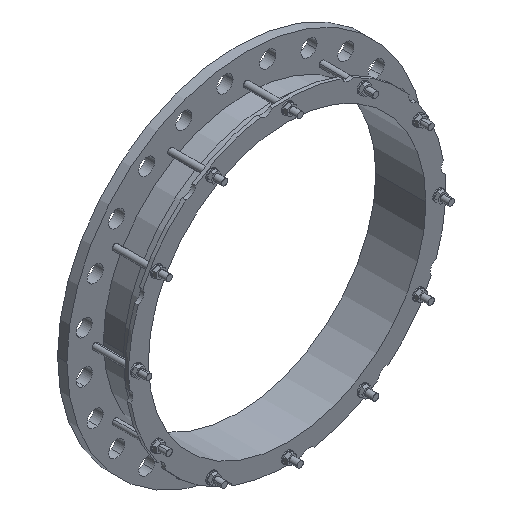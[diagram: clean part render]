
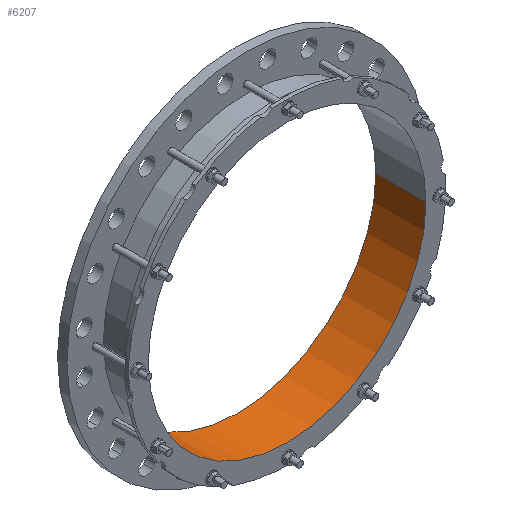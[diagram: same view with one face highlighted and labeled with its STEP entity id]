
A CAD part, isometric view. The second image highlights one B-rep face of the part: STEP entity #6207.
In plain terms, the highlighted cylindrical face has radius 371.25 mm (diameter 742.5 mm), a partial arc.
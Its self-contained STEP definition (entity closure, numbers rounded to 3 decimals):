
#7=CARTESIAN_POINT('',(0.,25.,0.));
#8=DIRECTION('',(0.,1.,0.));
#9=DIRECTION('',(1.,0.,0.));
#10=AXIS2_PLACEMENT_3D('',#7,#8,#9);
#2320=CARTESIAN_POINT('',(0.,-109.,0.));
#2321=DIRECTION('',(0.,1.,0.));
#2322=DIRECTION('',(1.,0.,0.));
#2323=AXIS2_PLACEMENT_3D('',#2320,#2321,#2322);
#2325=DIRECTION('',(0.,1.,0.));
#2326=VECTOR('',#2325,134.);
#2327=CARTESIAN_POINT('',(371.25,-109.,0.));
#2328=LINE('',#2327,#2326);
#2329=DIRECTION('',(0.,1.,0.));
#2330=VECTOR('',#2329,134.);
#2331=CARTESIAN_POINT('',(-371.25,-109.,0.));
#2332=LINE('',#2331,#2330);
#4198=CARTESIAN_POINT('',(371.25,-109.,0.));
#4199=CARTESIAN_POINT('',(371.25,25.,0.));
#4200=VERTEX_POINT('',#4198);
#4201=VERTEX_POINT('',#4199);
#4206=CARTESIAN_POINT('',(-371.25,-109.,0.));
#4207=CARTESIAN_POINT('',(-371.25,25.,0.));
#4208=VERTEX_POINT('',#4206);
#4209=VERTEX_POINT('',#4207);
#6194=CARTESIAN_POINT('',(0.,-115.7,0.));
#6195=DIRECTION('',(0.,1.,0.));
#6196=DIRECTION('',(-1.,0.,0.));
#6197=AXIS2_PLACEMENT_3D('',#6194,#6195,#6196);
#6198=CYLINDRICAL_SURFACE('',#6197,371.25);
#6200=ORIENTED_EDGE('',*,*,#6199,.F.);
#6201=ORIENTED_EDGE('',*,*,#6187,.T.);
#6203=ORIENTED_EDGE('',*,*,#6202,.T.);
#6204=ORIENTED_EDGE('',*,*,#5121,.F.);
#6205=EDGE_LOOP('',(#6200,#6201,#6203,#6204));
#6206=FACE_OUTER_BOUND('',#6205,.F.);
#6207=ADVANCED_FACE('',(#6206),#6198,.F.);
#11=CIRCLE('',#10,371.25);
#2324=CIRCLE('',#2323,371.25);
#5121=EDGE_CURVE('',#4201,#4209,#11,.T.);
#6187=EDGE_CURVE('',#4200,#4208,#2324,.T.);
#6199=EDGE_CURVE('',#4200,#4201,#2328,.T.);
#6202=EDGE_CURVE('',#4208,#4209,#2332,.T.);
